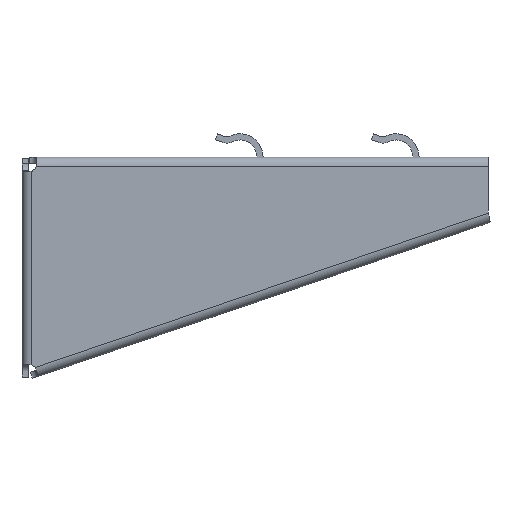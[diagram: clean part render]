
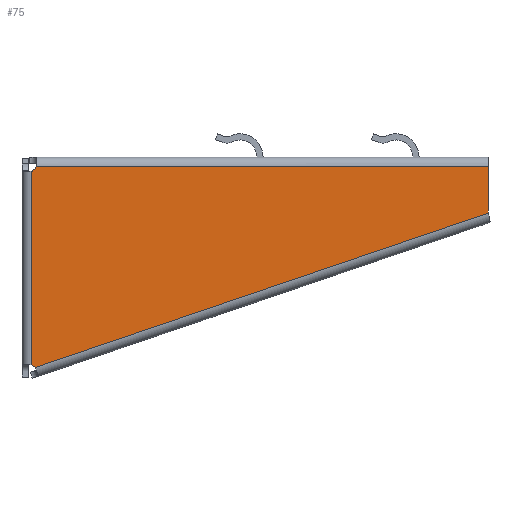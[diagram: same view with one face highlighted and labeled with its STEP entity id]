
A CAD part, left-side view. The second image highlights one B-rep face of the part: STEP entity #75.
In plain terms, the highlighted planar face has unit normal (-1, 0, 0).
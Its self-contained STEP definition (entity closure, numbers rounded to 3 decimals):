
#75=ADVANCED_FACE('',(#157),#1260,.T.);
#157=FACE_OUTER_BOUND('',#245,.T.);
#245=EDGE_LOOP('',(#509,#510,#511,#512,#513,#514,#515,#516,#517,#518,#519,
#520,#521,#522));
#509=ORIENTED_EDGE('',*,*,#813,.T.);
#510=ORIENTED_EDGE('',*,*,#757,.F.);
#511=ORIENTED_EDGE('',*,*,#812,.F.);
#512=ORIENTED_EDGE('',*,*,#818,.F.);
#513=ORIENTED_EDGE('',*,*,#737,.F.);
#514=ORIENTED_EDGE('',*,*,#740,.F.);
#515=ORIENTED_EDGE('',*,*,#743,.F.);
#516=ORIENTED_EDGE('',*,*,#761,.F.);
#517=ORIENTED_EDGE('',*,*,#811,.T.);
#518=ORIENTED_EDGE('',*,*,#746,.F.);
#519=ORIENTED_EDGE('',*,*,#749,.F.);
#520=ORIENTED_EDGE('',*,*,#752,.F.);
#521=ORIENTED_EDGE('',*,*,#755,.F.);
#522=ORIENTED_EDGE('',*,*,#763,.F.);
#737=EDGE_CURVE('',#1148,#1146,#1001,.T.);
#740=EDGE_CURVE('',#1150,#1148,#1004,.T.);
#743=EDGE_CURVE('',#1152,#1150,#1007,.T.);
#746=EDGE_CURVE('',#1154,#1142,#1010,.T.);
#749=EDGE_CURVE('',#1156,#1154,#1013,.T.);
#752=EDGE_CURVE('',#1158,#1156,#1016,.T.);
#755=EDGE_CURVE('',#1160,#1158,#1019,.T.);
#757=EDGE_CURVE('',#1162,#1163,#912,.T.);
#761=EDGE_CURVE('',#1140,#1152,#1023,.T.);
#763=EDGE_CURVE('',#1166,#1160,#1025,.T.);
#811=EDGE_CURVE('',#1140,#1142,#1060,.T.);
#812=EDGE_CURVE('',#1144,#1162,#927,.T.);
#813=EDGE_CURVE('',#1166,#1163,#1061,.T.);
#818=EDGE_CURVE('',#1146,#1144,#1066,.T.);
#912=B_SPLINE_CURVE_WITH_KNOTS('',1,(#2209,#2210),.UNSPECIFIED.,.F.,.F.,
(2,2),(729.366,744.306),.UNSPECIFIED.);
#927=B_SPLINE_CURVE_WITH_KNOTS('',1,(#2427,#2428),.UNSPECIFIED.,.F.,.F.,
(2,2),(0.677,80.806),.UNSPECIFIED.);
#1001=(
BOUNDED_CURVE()
B_SPLINE_CURVE(2,(#2155,#2156,#2157),.UNSPECIFIED.,.F.,.F.)
B_SPLINE_CURVE_WITH_KNOTS((3,3),(527.752,527.76),
 .UNSPECIFIED.)
CURVE()
GEOMETRIC_REPRESENTATION_ITEM()
RATIONAL_B_SPLINE_CURVE((1.,1.,1.))
REPRESENTATION_ITEM('')
);
#1004=(
BOUNDED_CURVE()
B_SPLINE_CURVE(2,(#2163,#2164,#2165),.UNSPECIFIED.,.F.,.F.)
B_SPLINE_CURVE_WITH_KNOTS((3,3),(526.571,527.752),
 .UNSPECIFIED.)
CURVE()
GEOMETRIC_REPRESENTATION_ITEM()
RATIONAL_B_SPLINE_CURVE((1.,0.972,1.))
REPRESENTATION_ITEM('')
);
#1007=(
BOUNDED_CURVE()
B_SPLINE_CURVE(2,(#2171,#2172,#2173),.UNSPECIFIED.,.F.,.F.)
B_SPLINE_CURVE_WITH_KNOTS((3,3),(526.568,526.571),
 .UNSPECIFIED.)
CURVE()
GEOMETRIC_REPRESENTATION_ITEM()
RATIONAL_B_SPLINE_CURVE((1.,1.,1.))
REPRESENTATION_ITEM('')
);
#1010=(
BOUNDED_CURVE()
B_SPLINE_CURVE(2,(#2179,#2180,#2181),.UNSPECIFIED.,.F.,.F.)
B_SPLINE_CURVE_WITH_KNOTS((3,3),(396.39,396.969),
 .UNSPECIFIED.)
CURVE()
GEOMETRIC_REPRESENTATION_ITEM()
RATIONAL_B_SPLINE_CURVE((1.,0.993,1.))
REPRESENTATION_ITEM('')
);
#1013=(
BOUNDED_CURVE()
B_SPLINE_CURVE(2,(#2187,#2188,#2189),.UNSPECIFIED.,.F.,.F.)
B_SPLINE_CURVE_WITH_KNOTS((3,3),(396.383,396.39),
 .UNSPECIFIED.)
CURVE()
GEOMETRIC_REPRESENTATION_ITEM()
RATIONAL_B_SPLINE_CURVE((1.,1.,1.))
REPRESENTATION_ITEM('')
);
#1016=(
BOUNDED_CURVE()
B_SPLINE_CURVE(2,(#2195,#2196,#2197),.UNSPECIFIED.,.F.,.F.)
B_SPLINE_CURVE_WITH_KNOTS((3,3),(396.024,396.383),
 .UNSPECIFIED.)
CURVE()
GEOMETRIC_REPRESENTATION_ITEM()
RATIONAL_B_SPLINE_CURVE((1.,0.997,1.))
REPRESENTATION_ITEM('')
);
#1019=(
BOUNDED_CURVE()
B_SPLINE_CURVE(2,(#2203,#2204,#2205),.UNSPECIFIED.,.F.,.F.)
B_SPLINE_CURVE_WITH_KNOTS((3,3),(396.02,396.024),
 .UNSPECIFIED.)
CURVE()
GEOMETRIC_REPRESENTATION_ITEM()
RATIONAL_B_SPLINE_CURVE((1.,1.,1.))
REPRESENTATION_ITEM('')
);
#1023=(
BOUNDED_CURVE()
B_SPLINE_CURVE(2,(#2222,#2223,#2224),.UNSPECIFIED.,.F.,.F.)
B_SPLINE_CURVE_WITH_KNOTS((3,3),(525.982,526.568),
 .UNSPECIFIED.)
CURVE()
GEOMETRIC_REPRESENTATION_ITEM()
RATIONAL_B_SPLINE_CURVE((1.,0.993,1.))
REPRESENTATION_ITEM('')
);
#1025=(
BOUNDED_CURVE()
B_SPLINE_CURVE(2,(#2228,#2229,#2230),.UNSPECIFIED.,.F.,.F.)
B_SPLINE_CURVE_WITH_KNOTS((3,3),(395.433,396.02),
 .UNSPECIFIED.)
CURVE()
GEOMETRIC_REPRESENTATION_ITEM()
RATIONAL_B_SPLINE_CURVE((1.,0.994,1.))
REPRESENTATION_ITEM('')
);
#1060=(
BOUNDED_CURVE()
B_SPLINE_CURVE(1,(#2425,#2426),.UNSPECIFIED.,.F.,.F.)
B_SPLINE_CURVE_WITH_KNOTS((2,2),(0.,61.977),.UNSPECIFIED.)
CURVE()
GEOMETRIC_REPRESENTATION_ITEM()
RATIONAL_B_SPLINE_CURVE((1.,1.))
REPRESENTATION_ITEM('')
);
#1061=(
BOUNDED_CURVE()
B_SPLINE_CURVE(1,(#2429,#2430),.UNSPECIFIED.,.F.,.F.)
B_SPLINE_CURVE_WITH_KNOTS((2,2),(0.534,154.041),
 .UNSPECIFIED.)
CURVE()
GEOMETRIC_REPRESENTATION_ITEM()
RATIONAL_B_SPLINE_CURVE((1.,1.))
REPRESENTATION_ITEM('')
);
#1066=(
BOUNDED_CURVE()
B_SPLINE_CURVE(2,(#2453,#2454,#2455),.UNSPECIFIED.,.F.,.F.)
B_SPLINE_CURVE_WITH_KNOTS((3,3),(527.76,528.339),
 .UNSPECIFIED.)
CURVE()
GEOMETRIC_REPRESENTATION_ITEM()
RATIONAL_B_SPLINE_CURVE((1.,0.993,1.))
REPRESENTATION_ITEM('')
);
#1140=VERTEX_POINT('',#1902);
#1142=VERTEX_POINT('',#1904);
#1144=VERTEX_POINT('',#1906);
#1146=VERTEX_POINT('',#1908);
#1148=VERTEX_POINT('',#1910);
#1150=VERTEX_POINT('',#1912);
#1152=VERTEX_POINT('',#1914);
#1154=VERTEX_POINT('',#1916);
#1156=VERTEX_POINT('',#1918);
#1158=VERTEX_POINT('',#1920);
#1160=VERTEX_POINT('',#1922);
#1162=VERTEX_POINT('',#1924);
#1163=VERTEX_POINT('',#1925);
#1166=VERTEX_POINT('',#1928);
#1260=PLANE('',#1432);
#1432=AXIS2_PLACEMENT_3D('',#1863,#1487,$);
#1487=DIRECTION('',(-1.,0.,0.));
#1863=CARTESIAN_POINT('',(-15.269,-150.234,26.615));
#1902=CARTESIAN_POINT('',(-15.269,-1.979,-3.089));
#1904=CARTESIAN_POINT('',(-15.269,-1.979,-65.066));
#1906=CARTESIAN_POINT('',(-15.269,-3.568,-1.5));
#1908=CARTESIAN_POINT('',(-15.269,-3.327,-2.019));
#1910=CARTESIAN_POINT('',(-15.269,-3.323,-2.026));
#1912=CARTESIAN_POINT('',(-15.269,-2.498,-2.848));
#1914=CARTESIAN_POINT('',(-15.269,-2.496,-2.849));
#1916=CARTESIAN_POINT('',(-15.269,-2.498,-65.306));
#1918=CARTESIAN_POINT('',(-15.269,-2.504,-65.31));
#1920=CARTESIAN_POINT('',(-15.269,-2.793,-65.518));
#1922=CARTESIAN_POINT('',(-15.269,-2.796,-65.52));
#1924=CARTESIAN_POINT('',(-15.269,-148.498,-1.5));
#1925=CARTESIAN_POINT('',(-15.269,-148.498,-16.44));
#1928=CARTESIAN_POINT('',(-15.269,-3.188,-65.931));
#2155=CARTESIAN_POINT('',(-15.269,-3.323,-2.026));
#2156=CARTESIAN_POINT('',(-15.269,-3.325,-2.022));
#2157=CARTESIAN_POINT('',(-15.269,-3.327,-2.019));
#2163=CARTESIAN_POINT('',(-15.269,-2.498,-2.848));
#2164=CARTESIAN_POINT('',(-15.269,-3.009,-2.536));
#2165=CARTESIAN_POINT('',(-15.269,-3.323,-2.026));
#2171=CARTESIAN_POINT('',(-15.269,-2.496,-2.849));
#2172=CARTESIAN_POINT('',(-15.269,-2.497,-2.849));
#2173=CARTESIAN_POINT('',(-15.269,-2.498,-2.848));
#2179=CARTESIAN_POINT('',(-15.269,-2.498,-65.306));
#2180=CARTESIAN_POINT('',(-15.269,-2.252,-65.156));
#2181=CARTESIAN_POINT('',(-15.269,-1.979,-65.066));
#2187=CARTESIAN_POINT('',(-15.269,-2.504,-65.31));
#2188=CARTESIAN_POINT('',(-15.269,-2.501,-65.308));
#2189=CARTESIAN_POINT('',(-15.269,-2.498,-65.306));
#2195=CARTESIAN_POINT('',(-15.269,-2.793,-65.518));
#2196=CARTESIAN_POINT('',(-15.269,-2.656,-65.403));
#2197=CARTESIAN_POINT('',(-15.269,-2.504,-65.31));
#2203=CARTESIAN_POINT('',(-15.269,-2.796,-65.52));
#2204=CARTESIAN_POINT('',(-15.269,-2.795,-65.519));
#2205=CARTESIAN_POINT('',(-15.269,-2.793,-65.518));
#2209=CARTESIAN_POINT('',(-15.269,-148.498,-1.5));
#2210=CARTESIAN_POINT('',(-15.269,-148.498,-16.44));
#2222=CARTESIAN_POINT('',(-15.269,-1.979,-3.089));
#2223=CARTESIAN_POINT('',(-15.269,-2.251,-2.999));
#2224=CARTESIAN_POINT('',(-15.269,-2.496,-2.849));
#2228=CARTESIAN_POINT('',(-15.269,-3.188,-65.931));
#2229=CARTESIAN_POINT('',(-15.269,-3.016,-65.703));
#2230=CARTESIAN_POINT('',(-15.269,-2.796,-65.52));
#2425=CARTESIAN_POINT('',(-15.269,-1.979,-3.089));
#2426=CARTESIAN_POINT('',(-15.269,-1.979,-65.066));
#2427=CARTESIAN_POINT('',(-15.269,-3.568,-1.5));
#2428=CARTESIAN_POINT('',(-15.269,-148.498,-1.5));
#2429=CARTESIAN_POINT('',(-15.269,-3.188,-65.931));
#2430=CARTESIAN_POINT('',(-15.269,-148.498,-16.44));
#2453=CARTESIAN_POINT('',(-15.269,-3.327,-2.019));
#2454=CARTESIAN_POINT('',(-15.269,-3.477,-1.773));
#2455=CARTESIAN_POINT('',(-15.269,-3.568,-1.5));
